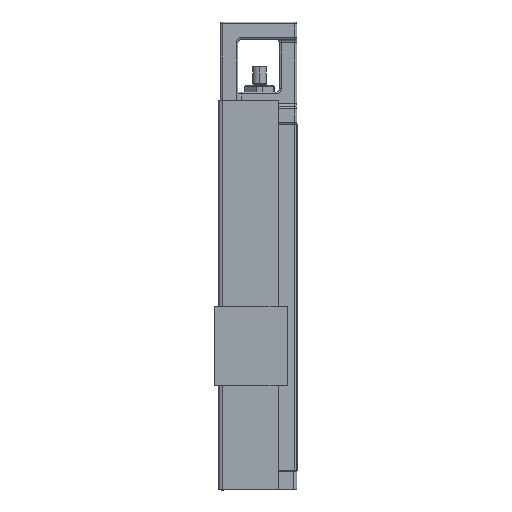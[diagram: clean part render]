
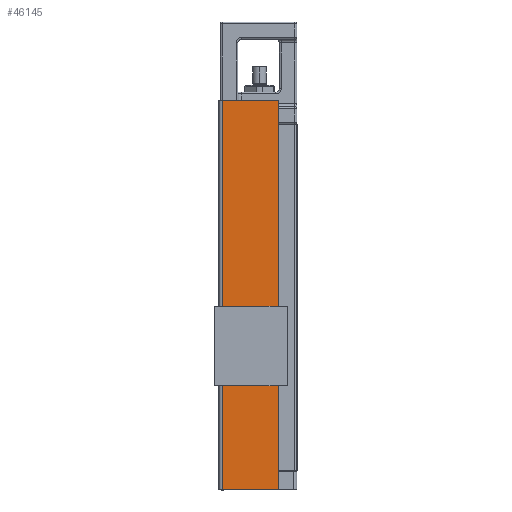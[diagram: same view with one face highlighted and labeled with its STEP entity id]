
A CAD part, left-side view. The second image highlights one B-rep face of the part: STEP entity #46145.
In plain terms, the highlighted planar face has unit normal (-1, 0, 0).
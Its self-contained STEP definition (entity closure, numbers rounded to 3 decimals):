
#1674 = LINE ( 'NONE', #47408, #25226 ) ;
#3598 = DIRECTION ( 'NONE',  ( -1., 0., 0. ) ) ;
#4917 = VECTOR ( 'NONE', #16968, 1000. ) ;
#7643 = CARTESIAN_POINT ( 'NONE',  ( -51., 11., 13.5 ) ) ;
#8894 = AXIS2_PLACEMENT_3D ( 'NONE', #50379, #3598, #36454 ) ;
#12386 = VERTEX_POINT ( 'NONE', #23610 ) ;
#14618 = DIRECTION ( 'NONE',  ( 0., 0., -1. ) ) ;
#16968 = DIRECTION ( 'NONE',  ( 0., -1., 0. ) ) ;
#18062 = ORIENTED_EDGE ( 'NONE', *, *, #40477, .T. ) ;
#19319 = VECTOR ( 'NONE', #30565, 1000. ) ;
#23610 = CARTESIAN_POINT ( 'NONE',  ( -51., 43.5, 13.5 ) ) ;
#24147 = VERTEX_POINT ( 'NONE', #7643 ) ;
#25226 = VECTOR ( 'NONE', #14618, 1000. ) ;
#26271 = CARTESIAN_POINT ( 'NONE',  ( -51., 22., -211. ) ) ;
#27011 = PLANE ( 'NONE',  #8894 ) ;
#27135 = ORIENTED_EDGE ( 'NONE', *, *, #46775, .F. ) ;
#28491 = FACE_OUTER_BOUND ( 'NONE', #40756, .T. ) ;
#30565 = DIRECTION ( 'NONE',  ( 0., 0., 1. ) ) ;
#33386 = VECTOR ( 'NONE', #59012, 1000. ) ;
#33878 = CARTESIAN_POINT ( 'NONE',  ( -51., 43.5, -211. ) ) ;
#33879 = ORIENTED_EDGE ( 'NONE', *, *, #40332, .T. ) ;
#36454 = DIRECTION ( 'NONE',  ( 0., 0., 1. ) ) ;
#38445 = EDGE_CURVE ( 'NONE', #49047, #52694, #44317, .T. ) ;
#40332 = EDGE_CURVE ( 'NONE', #12386, #49047, #1674, .T. ) ;
#40477 = EDGE_CURVE ( 'NONE', #52694, #24147, #55177, .T. ) ;
#40756 = EDGE_LOOP ( 'NONE', ( #18062, #27135, #33879, #43401 ) ) ;
#40892 = LINE ( 'NONE', #58953, #4917 ) ;
#43401 = ORIENTED_EDGE ( 'NONE', *, *, #38445, .T. ) ;
#44317 = LINE ( 'NONE', #26271, #33386 ) ;
#46145 = ADVANCED_FACE ( 'NONE', ( #28491 ), #27011, .T. ) ;
#46775 = EDGE_CURVE ( 'NONE', #12386, #24147, #40892, .T. ) ;
#47408 = CARTESIAN_POINT ( 'NONE',  ( -51., 43.5, -50.8 ) ) ;
#49047 = VERTEX_POINT ( 'NONE', #33878 ) ;
#50379 = CARTESIAN_POINT ( 'NONE',  ( -51., 48., -50.8 ) ) ;
#52694 = VERTEX_POINT ( 'NONE', #56142 ) ;
#55177 = LINE ( 'NONE', #58407, #19319 ) ;
#56142 = CARTESIAN_POINT ( 'NONE',  ( -51., 11., -211. ) ) ;
#58407 = CARTESIAN_POINT ( 'NONE',  ( -51., 11., -50.8 ) ) ;
#58953 = CARTESIAN_POINT ( 'NONE',  ( -51., 44.5, 13.5 ) ) ;
#59012 = DIRECTION ( 'NONE',  ( 0., -1., 0. ) ) ;
